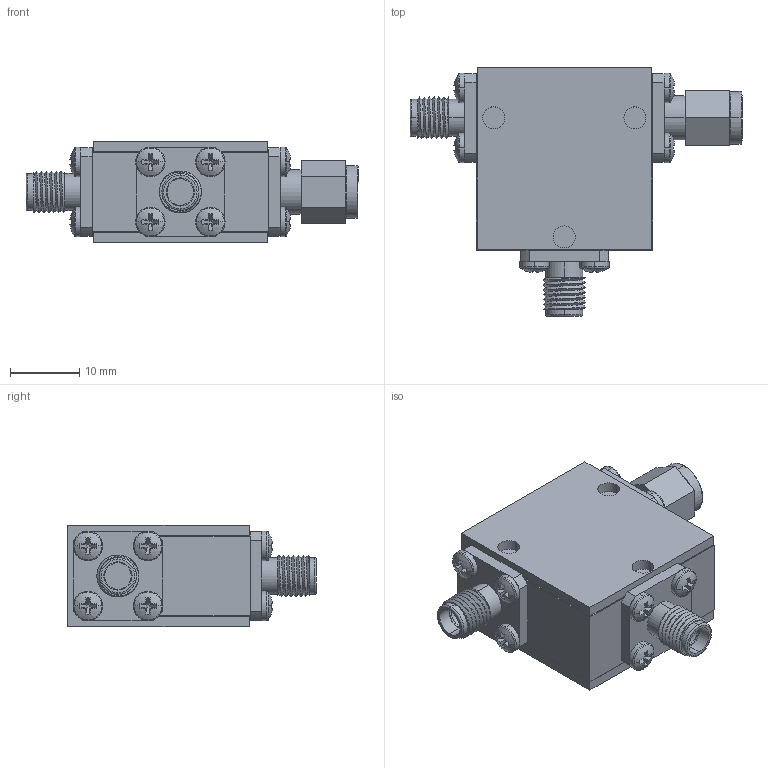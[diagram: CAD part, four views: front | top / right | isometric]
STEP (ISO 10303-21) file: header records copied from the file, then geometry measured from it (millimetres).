
FILE_DESCRIPTION (( 'STEP AP214' ), '1' );
FILE_NAME ('Package 3-2 Circ FMF - Cryo Shielded.STEP', '2023-12-19T23:42:11', ( '' ), ( '' ), 'SwSTEP 2.0', 'SolidWorks 2016', '' );
FILE_SCHEMA (( 'AUTOMOTIVE_DESIGN' ));
Length unit declared in the file: inch
Products named in the file (6): WR050; Delta SMA-Female 0.500 flange Threaded; Delta SMA-Male; Package 3-2 Circ FMF - Cryo Shielded; pan cross head_ai_CR-PHMS 0.086-56x0.125x0.125-N; Package Size 3
Assembly tree (17 placements, depth 2):
  Package 3-2 Circ FMF - Cryo Shielded
    Package Size 3
    Delta SMA-Female 0.500 flange Threaded  x2
    pan cross head_ai_CR-PHMS 0.086-56x0.125x0.125-N  x12
    WR050
    Delta SMA-Male
Bounding box: 47.8 x 35.81 x 14.58 mm (x, y, z)
Volume: 10962.7 mm3; surface area: 8964.1 mm2
Topology: 17 solids, 17 shells, 437 faces, 1000 edges, 618 vertices
Faces by surface type: plane 241, cylinder 132, torus 34, sphere 24, bspline 6
Entity records: 5473 total; most frequent: CARTESIAN_POINT 1486, DIRECTION 849, ORIENTED_EDGE 710, EDGE_CURVE 355, AXIS2_PLACEMENT_3D 340, VERTEX_POINT 227, EDGE_LOOP 192, CIRCLE 178
